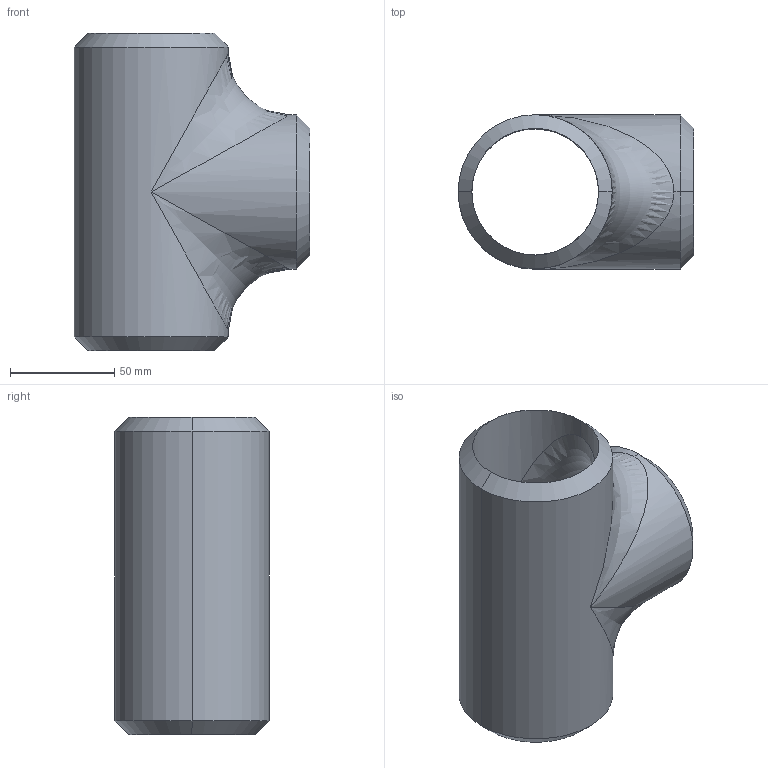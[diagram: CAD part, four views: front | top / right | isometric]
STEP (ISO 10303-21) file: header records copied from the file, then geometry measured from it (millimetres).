
FILE_DESCRIPTION (( 'STEP AP203' ), '1' );
FILE_NAME ('3D-R66_2 1-2x80S_173445162.STEP', '2024-08-30T07:43:26', ( '' ), ( '' ), 'SwSTEP 2.0', 'SolidWorks 2024', '' );
FILE_SCHEMA (( 'CONFIG_CONTROL_DESIGN' ));
Length unit declared in the file: millimetre
Products named in the file (1): 3D-R66_2 1-2x80S_173445162
Bounding box: 113.2 x 74 x 152.4 mm (x, y, z)
Volume: 241070.7 mm3; surface area: 78824.1 mm2
Topology: 1 solids, 1 shells, 21 faces, 58 edges, 30 vertices
Faces by surface type: cylinder 8, cone 6, bspline 4, plane 3
Entity records: 1363 total; most frequent: CARTESIAN_POINT 842, ORIENTED_EDGE 100, DIRECTION 88, EDGE_CURVE 50, AXIS2_PLACEMENT_3D 36, VERTEX_POINT 30, EDGE_LOOP 24, ADVANCED_FACE 21
